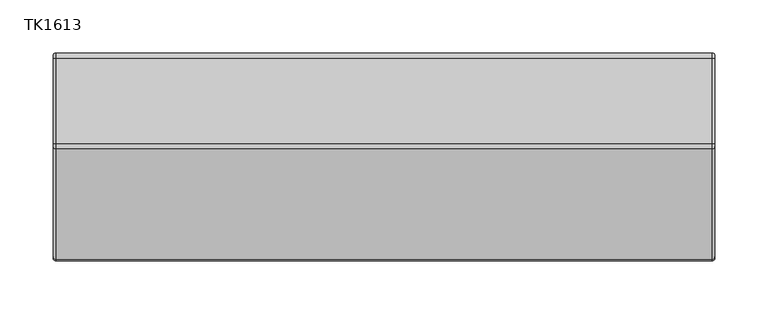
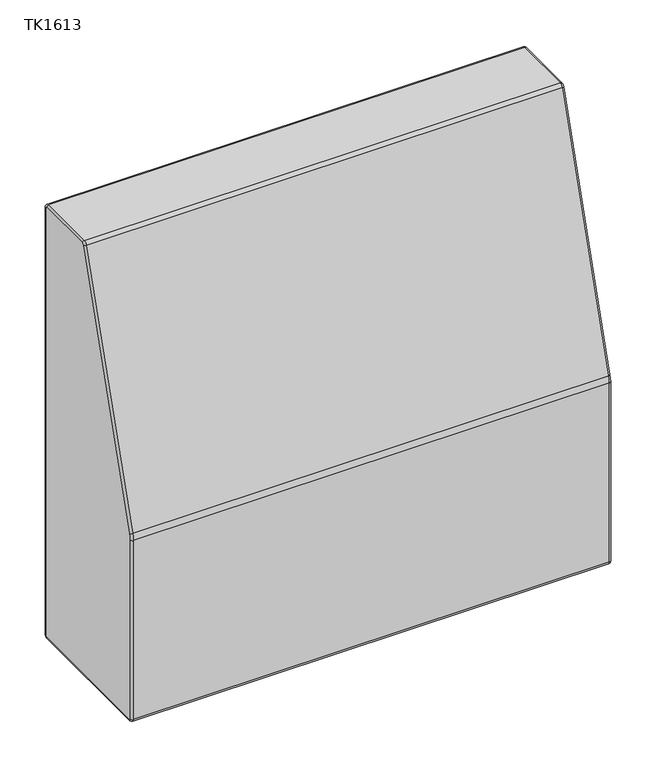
"""IFC4 building model written with IfcOpenShell, lengths in millimetres: furniture geometry, JSI-Teekan-Single_Seat_Lounge : TK1613."""

import ifcopenshell
import ifcopenshell.guid

model = None  # the IFC model being written
_history = None  # IfcOwnerHistory: only IFC2X3 demands one
_inside = {}  # id of a spatial element -> (the spatial element, [elements in it])
_under = {}  # id of a project, library or spatial element -> (it, [spatial elements below it])
_declared = {}  # id of a project -> (the project, [libraries it declares])
_typed = {}  # id of a type object -> (the type object, [elements of that type])
_made_of = {}  # id of a material, layer set ... -> (it, [elements and type objects made of it])


def new_model(schema):
    """Start an empty IFC model of exactly this schema.

    Asked for "IFC4X3", IfcOpenShell would pick the latest addendum, in which some entities
    have other attributes; the version numbers below select the first issue.
    IFC2X3 requires an IfcOwnerHistory on every rooted entity: one is made here for all.
    """
    global model, _history
    if schema == "IFC4X3":
        model = ifcopenshell.file(schema_version=(4, 3, 0, 0))
    else:
        model = ifcopenshell.file(schema=schema)
    _inside.clear()
    _under.clear()
    _declared.clear()
    _typed.clear()
    _made_of.clear()
    _history = None
    if model.schema == "IFC2X3":
        org = make("IfcOrganization", Name="unknown")
        user = make(
            "IfcPersonAndOrganization",
            ThePerson=make("IfcPerson", FamilyName="unknown"),
            TheOrganization=org,
        )
        app = make(
            "IfcApplication",
            ApplicationDeveloper=org,
            Version="unknown",
            ApplicationFullName="unknown",
            ApplicationIdentifier="unknown",
        )
        _history = make(
            "IfcOwnerHistory",
            OwningUser=user,
            OwningApplication=app,
            ChangeAction="ADDED",
            CreationDate=0,
        )
    return model


def make(cls, **values):
    """One entity of the class cls with the attributes given. An attribute that is None is left unset."""
    return model.create_entity(
        cls, **{name: value for name, value in values.items() if value is not None}
    )


def rooted(cls, **values):
    """An entity with a GlobalId (a new one), such as an element, a storey or a relation."""
    return make(cls, GlobalId=ifcopenshell.guid.new(), OwnerHistory=_history, **values)


def si_unit(unit_type, name, prefix=None):
    """IfcSIUnit, for example si_unit("LENGTHUNIT", "METRE", prefix="MILLI")."""
    return make("IfcSIUnit", UnitType=unit_type, Prefix=prefix, Name=name)


def assignment(units):
    """IfcUnitAssignment: the units of a project."""
    return None if units is None else make("IfcUnitAssignment", Units=units)


def point(xyz):
    """IfcCartesianPoint."""
    return None if xyz is None else make("IfcCartesianPoint", Coordinates=xyz)


def direction(xyz):
    """IfcDirection."""
    return None if xyz is None else make("IfcDirection", DirectionRatios=xyz)


def frame(location, z_axis=None, x_axis=None):
    """IfcAxis2Placement3D, a coordinate frame: its origin and axes. An axis left out is left unset."""
    return make(
        "IfcAxis2Placement3D",
        Location=point(location),
        Axis=direction(z_axis),
        RefDirection=direction(x_axis),
    )


def origin():
    """The frame at (0, 0, 0) with its axes left unset."""
    return frame((0.0, 0.0, 0.0))


def place(relative_to, where):
    """IfcLocalPlacement: puts the frame where relative to a parent placement (None: the world)."""
    return make(
        "IfcLocalPlacement", PlacementRelTo=relative_to, RelativePlacement=where
    )


def context(
    kind, dimensions, precision=None, world=None, true_north=None, identifier=None
):
    """IfcGeometricRepresentationContext, for example the 3D "Model" context."""
    return make(
        "IfcGeometricRepresentationContext",
        ContextIdentifier=identifier,
        ContextType=kind,
        CoordinateSpaceDimension=dimensions,
        Precision=precision,
        WorldCoordinateSystem=world,
        TrueNorth=true_north,
    )


def project(units=None, contexts=None):
    """IfcProject with its units and contexts."""
    return rooted(
        "IfcProject",
        Name="project",
        RepresentationContexts=contexts,
        UnitsInContext=assignment(units),
    )


def spatial(cls, under=None, at=None, **own):
    """A site, building, storey or space (cls), placed at a placement, below another one or the project."""
    s = rooted(cls, ObjectPlacement=at, **own)
    if under is not None:
        _under.setdefault(under.id(), (under, []))[1].append(s)
    return s


def circle_curve(where, radius):
    """IfcCircle in the frame where."""
    return make("IfcCircle", Position=where, Radius=radius)


def ellipse_curve(where, semi_axis1, semi_axis2):
    """IfcEllipse in the frame where."""
    return make(
        "IfcEllipse", Position=where, SemiAxis1=semi_axis1, SemiAxis2=semi_axis2
    )


def trimmed(basis, trim1, trim2, sense, master):
    """IfcTrimmedCurve: the piece of a basis curve between two trims."""
    return make(
        "IfcTrimmedCurve",
        BasisCurve=basis,
        Trim1=trim1,
        Trim2=trim2,
        SenseAgreement=sense,
        MasterRepresentation=master,
    )


def shape(context_of_items, identifier, shape_type, items):
    """IfcShapeRepresentation: the items that make up one representation, for example the "Body"."""
    return make(
        "IfcShapeRepresentation",
        ContextOfItems=context_of_items,
        RepresentationIdentifier=identifier,
        RepresentationType=shape_type,
        Items=items,
    )


def source(mapping_origin, context_of_items, identifier, shape_type, items):
    """IfcRepresentationMap: a shape defined once, which mapped items show again and again."""
    return make(
        "IfcRepresentationMap",
        MappingOrigin=mapping_origin,
        MappedRepresentation=shape(context_of_items, identifier, shape_type, items),
    )


def transform(
    local_origin,
    x_axis=None,
    y_axis=None,
    z_axis=None,
    scale=None,
    scale2=None,
    scale3=None,
    uniform=True,
):
    """IfcCartesianTransformationOperator3D, or its non-uniform kind. x_axis, y_axis, z_axis: its Axis1, 2, 3."""
    if uniform:
        return make(
            "IfcCartesianTransformationOperator3D",
            Axis1=direction(x_axis),
            Axis2=direction(y_axis),
            LocalOrigin=point(local_origin),
            Scale=scale,
            Axis3=direction(z_axis),
        )
    return make(
        "IfcCartesianTransformationOperator3DnonUniform",
        Axis1=direction(x_axis),
        Axis2=direction(y_axis),
        LocalOrigin=point(local_origin),
        Scale=scale,
        Axis3=direction(z_axis),
        Scale2=scale2,
        Scale3=scale3,
    )


def mapped(mapping_source, mapping_target):
    """IfcMappedItem: shows the shape of a source again, moved by a transform."""
    return make(
        "IfcMappedItem", MappingSource=mapping_source, MappingTarget=mapping_target
    )


def made_of(thing, what):
    """Note that an element or type object is made of a material, layer set ...; save() writes the relation."""
    if what is not None:
        _made_of.setdefault(what.id(), (what, []))[1].append(thing)
    return thing


def element(
    cls,
    number,
    at=None,
    inside=None,
    cuts=None,
    type_object=None,
    material=None,
    context=None,
    identifier="Body",
    shape_type=None,
    held_by="IfcProductDefinitionShape",
    body=None,
    shapes=None,
    **own,
):
    """One element of the class cls, such as IfcWall. Its Tag is "e" and its number.

    at: its placement. inside: the storey or other place that contains it. cuts: it is an
    opening in that element (IfcRelVoidsElement). A single representation is given by context,
    identifier, shape_type and body (its items); several are given by shapes. held_by: the class
    of the entity that holds the representations. save() writes the other relations.
    """
    e = rooted(cls, Tag="e%d" % number, ObjectPlacement=at, **own)
    if body is not None:
        shapes = [shape(context, identifier, shape_type, body)]
    if shapes is not None:
        e.Representation = make(held_by, Representations=shapes)
    if inside is not None:
        _inside.setdefault(inside.id(), (inside, []))[1].append(e)
    if cuts is not None:
        rooted(
            "IfcRelVoidsElement", RelatingBuildingElement=cuts, RelatedOpeningElement=e
        )
    if type_object is not None:
        _typed.setdefault(type_object.id(), (type_object, []))[1].append(e)
    return made_of(e, material)


def aggregate(whole, parts):
    """IfcRelAggregates: a whole, such as a stair, and the parts it consists of."""
    return rooted("IfcRelAggregates", RelatingObject=whole, RelatedObjects=parts)


def save(model, path):
    """Write the relations noted so far, then the file.

    IfcRelAggregates (storeys below a building ...), IfcRelContainedInSpatialStructure (elements
    in a storey), IfcRelDefinesByType, IfcRelAssociatesMaterial and IfcRelDeclares: one each for
    every whole, place, type object, material and project.
    """
    for whole, parts in _under.values():
        aggregate(whole, parts)
    for where, things in _inside.values():
        rooted(
            "IfcRelContainedInSpatialStructure",
            RelatedElements=things,
            RelatingStructure=where,
        )
    for kind, things in _typed.values():
        rooted("IfcRelDefinesByType", RelatedObjects=things, RelatingType=kind)
    for what, things in _made_of.values():
        rooted("IfcRelAssociatesMaterial", RelatedObjects=things, RelatingMaterial=what)
    for by, libraries in _declared.values():
        rooted("IfcRelDeclares", RelatingContext=by, RelatedDefinitions=libraries)
    model.write(path)


def plane_surface(at):
    """IfcPlane: the flat surface through the origin of the frame at, square to its z axis."""
    return make("IfcPlane", Position=at)


def cylinder_surface(at, radius):
    """IfcCylindricalSurface: all points at the distance radius from the z axis of the frame at."""
    return make("IfcCylindricalSurface", Position=at, Radius=radius)


def revolved_surface(curve, axis_point, axis_direction):
    """IfcSurfaceOfRevolution: the curve turned about the line through axis_point along axis_direction."""
    return make(
        "IfcSurfaceOfRevolution",
        SweptCurve=make("IfcArbitraryOpenProfileDef", ProfileType="CURVE", Curve=curve),
        AxisPosition=make("IfcAxis1Placement", Location=point(axis_point), Axis=direction(axis_direction)),
    )


def advanced_brep(points, edges, surfaces, faces):
    """IfcAdvancedBrep: a solid bounded by faces that lie on surfaces and meet in shared edges.

    An edge is (start, end): straight between two places in points (the first is 0);
    or (start, end, curve); or (start, end, curve, False) where it runs against its curve.
    A face is (place in surfaces, loops), or (place, loops, False) where it looks against
    its surface's normal. A loop lists edges by number (the first is 1), with a minus sign
    where the edge is run from its end to its start. The first loop is the outer one.
    """
    corners = [point(p) for p in points]
    vertices = [make("IfcVertexPoint", VertexGeometry=c) for c in corners]
    made = []
    for start, end, *more in edges:
        made.append(
            make(
                "IfcEdgeCurve",
                EdgeStart=vertices[start],
                EdgeEnd=vertices[end],
                EdgeGeometry=more[0] if more else make("IfcPolyline", Points=[corners[start], corners[end]]),
                SameSense=more[1] if len(more) > 1 else True,
            )
        )
    hull = []
    for where, loops, *sense in faces:
        bounds = []
        for j, loop in enumerate(loops):
            ring = [make("IfcOrientedEdge", EdgeElement=made[abs(k) - 1], Orientation=k > 0) for k in loop]
            bounds.append(
                make(
                    "IfcFaceOuterBound" if j == 0 else "IfcFaceBound",
                    Bound=make("IfcEdgeLoop", EdgeList=ring),
                    Orientation=True,
                )
            )
        hull.append(make("IfcAdvancedFace", Bounds=bounds, FaceSurface=surfaces[where], SameSense=sense[0] if sense else True))
    return make("IfcAdvancedBrep", Outer=make("IfcClosedShell", CfsFaces=hull))


def tk1613_4c493a33(model_context):
    return source(origin(), model_context, "Body", "AdvancedBrep", [
        advanced_brep(
        [(311.15, 261.4671324, 783.3496278), (311.15, 263.7394056, 785.01875), (308.76875, 263.7394056, 787.4), (308.76875, 259.1948592, 784.0617556), (-308.76875, 259.1948592, 784.0617556), (-308.76875, 263.7394056, 787.4), (-311.15, 263.7394056, 785.01875), (-311.15, 261.4671324, 783.3496278), (308.76875, 155.07802, 451.8434221), (311.15, 157.3502932, 451.1312943), (-311.15, 157.3502932, 451.1312943), (-308.76875, 155.07802, 451.8434221), (308.76875, 153.733973, 443.0605128), (311.15, 156.115223, 443.0605128), (-311.15, 156.115223, 443.0605128), (-308.76875, 153.733973, 443.0605128), (308.76875, 153.733973, 197.5346851), (311.15, 156.115223, 197.5346851), (-311.15, 156.115223, 197.5346851), (-308.76875, 153.733973, 197.5346851), (308.76875, 158.496473, 192.7721851), (311.15, 158.496473, 195.1534351), (-311.15, 158.496473, 195.1534351), (-308.76875, 158.496473, 192.7721851), (308.76875, 344.4875, 192.7721851), (311.15, 344.4875, 195.1534351), (-311.15, 344.4875, 195.1534351), (-308.76875, 344.4875, 192.7721851), (308.76875, 349.25, 197.5346851), (311.15, 346.86875, 197.5346851), (-311.15, 346.86875, 197.5346851), (-308.76875, 349.25, 197.5346851), (308.76875, 349.25, 782.6375), (311.15, 346.86875, 782.6375), (-311.15, 346.86875, 782.6375), (-308.76875, 349.25, 782.6375), (308.76875, 344.4875, 787.4), (311.15, 344.4875, 785.01875), (-311.15, 344.4875, 785.01875), (-308.76875, 344.4875, 787.4)],
        [
            (0, 1, circle_curve(frame((311.15, 263.7394056, 782.6375), z_axis=(-1.0, 0.0, 0.0), x_axis=(0.0, 0.0, 1.0)), 2.38125)),
            (1, 2, circle_curve(frame((308.76875, 263.7394056, 785.01875), z_axis=(0.0, -1.0, 0.0), x_axis=(0.0, 0.0, -1.0)), 2.38125)),
            (2, 3, circle_curve(frame((308.76875, 263.7394056, 782.6375), z_axis=(1.0, 0.0, 0.0), x_axis=(0.0, 0.0, 1.0)), 4.7625)),
            (3, 0, circle_curve(frame((308.76875, 261.4671324, 783.3496278), z_axis=(0.0, 0.2990562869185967, 0.9542354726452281), x_axis=(0.0, 0.9542354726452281, -0.2990562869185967)), 2.38125)),
            (4, 5, circle_curve(frame((-308.76875, 263.7394056, 782.6375), z_axis=(-1.0, 0.0, 0.0), x_axis=(0.0, 0.0, 1.0)), 4.7625)),
            (5, 6, circle_curve(frame((-308.76875, 263.7394056, 785.01875), z_axis=(0.0, -1.0, 0.0), x_axis=(0.0, 0.0, -1.0)), 2.38125)),
            (6, 7, circle_curve(frame((-311.15, 263.7394056, 782.6375), z_axis=(1.0, 0.0, 0.0), x_axis=(0.0, 0.0, 1.0)), 2.38125)),
            (7, 4, circle_curve(frame((-308.76875, 261.4671324, 783.3496278), z_axis=(0.0, 0.29905628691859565, 0.9542354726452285), x_axis=(0.0, 0.9542354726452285, -0.29905628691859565)), 2.38125)),
            (2, 5),
            (4, 3),
            (3, 8),
            (8, 9, circle_curve(frame((308.76875, 157.3502932, 451.1312943), z_axis=(0.0, 0.29905628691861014, 0.954235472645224), x_axis=(0.0, 0.954235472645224, -0.29905628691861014)), 2.38125)),
            (9, 0),
            (7, 10),
            (10, 11, circle_curve(frame((-308.76875, 157.3502932, 451.1312943), z_axis=(0.0, 0.29905628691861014, 0.954235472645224), x_axis=(0.0, 0.954235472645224, -0.29905628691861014)), 2.38125)),
            (11, 4),
            (11, 8),
            (8, 12, circle_curve(frame((308.76875, 183.102723, 443.0605128), z_axis=(1.0, 0.0, 0.0), x_axis=(0.0, -0.9542354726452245, 0.29905628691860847)), 29.36875)),
            (12, 13, circle_curve(frame((308.76875, 156.115223, 443.0605128), z_axis=(0.0, 0.0, 1.0), x_axis=(0.0, 1.0, 0.0)), 2.38125)),
            (13, 9, circle_curve(frame((311.15, 183.102723, 443.0605128), z_axis=(-1.0, 0.0, 0.0), x_axis=(0.0, -0.9542354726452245, 0.29905628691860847)), 26.9875)),
            (10, 14, circle_curve(frame((-311.15, 183.102723, 443.0605128), z_axis=(1.0, 0.0, 0.0), x_axis=(0.0, -0.9542354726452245, 0.29905628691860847)), 26.9875)),
            (14, 15, circle_curve(frame((-308.76875, 156.115223, 443.0605128), z_axis=(0.0, 0.0, 1.0), x_axis=(0.0, 1.0, 0.0)), 2.38125)),
            (15, 11, circle_curve(frame((-308.76875, 183.102723, 443.0605128), z_axis=(-1.0, 0.0, 0.0), x_axis=(0.0, -0.9542354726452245, 0.29905628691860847)), 29.36875)),
            (15, 12),
            (12, 16),
            (16, 17, circle_curve(frame((308.76875, 156.115223, 197.5346851), z_axis=(0.0, 0.0, 1.0), x_axis=(0.0, 1.0, 0.0)), 2.38125)),
            (17, 13),
            (14, 18),
            (18, 19, circle_curve(frame((-308.76875, 156.115223, 197.5346851), z_axis=(0.0, 0.0, 1.0), x_axis=(0.0, 1.0, 0.0)), 2.38125)),
            (19, 15),
            (19, 16),
            (16, 20, circle_curve(frame((308.76875, 158.496473, 197.5346851), z_axis=(1.0, 0.0, 0.0), x_axis=(0.0, -1.0, 0.0)), 4.7625)),
            (20, 21, circle_curve(frame((308.76875, 158.496473, 195.1534351), z_axis=(0.0, -1.0, 0.0), x_axis=(0.0, 0.0, 1.0)), 2.38125)),
            (21, 17, circle_curve(frame((311.15, 158.496473, 197.5346851), z_axis=(-1.0, 0.0, 0.0), x_axis=(0.0, -1.0, 0.0)), 2.38125)),
            (18, 22, circle_curve(frame((-311.15, 158.496473, 197.5346851), z_axis=(1.0, 0.0, 0.0), x_axis=(0.0, -1.0, 0.0)), 2.38125)),
            (22, 23, circle_curve(frame((-308.76875, 158.496473, 195.1534351), z_axis=(0.0, -1.0, 0.0), x_axis=(0.0, 0.0, 1.0)), 2.38125)),
            (23, 19, circle_curve(frame((-308.76875, 158.496473, 197.5346851), z_axis=(-1.0, 0.0, 0.0), x_axis=(0.0, -1.0, 0.0)), 4.7625)),
            (23, 20),
            (20, 24),
            (24, 25, circle_curve(frame((308.76875, 344.4875, 195.1534351), z_axis=(0.0, -1.0, 0.0), x_axis=(0.0, 0.0, 1.0)), 2.38125)),
            (25, 21),
            (22, 26),
            (26, 27, circle_curve(frame((-308.76875, 344.4875, 195.1534351), z_axis=(0.0, -1.0, 0.0), x_axis=(0.0, 0.0, 1.0)), 2.38125)),
            (27, 23),
            (27, 24),
            (24, 28, circle_curve(frame((308.76875, 344.4875, 197.5346851), z_axis=(1.0, 0.0, 0.0), x_axis=(0.0, 0.0, -1.0)), 4.7625)),
            (28, 29, circle_curve(frame((308.76875, 346.86875, 197.5346851), z_axis=(0.0, 0.0, -1.0), x_axis=(0.0, -1.0, 0.0)), 2.38125)),
            (29, 25, circle_curve(frame((311.15, 344.4875, 197.5346851), z_axis=(-1.0, 0.0, 0.0), x_axis=(0.0, 0.0, -1.0)), 2.38125)),
            (26, 30, circle_curve(frame((-311.15, 344.4875, 197.5346851), z_axis=(1.0, 0.0, 0.0), x_axis=(0.0, 0.0, -1.0)), 2.38125)),
            (30, 31, circle_curve(frame((-308.76875, 346.86875, 197.5346851), z_axis=(0.0, 0.0, -1.0), x_axis=(0.0, -1.0, 0.0)), 2.38125)),
            (31, 27, circle_curve(frame((-308.76875, 344.4875, 197.5346851), z_axis=(-1.0, 0.0, 0.0), x_axis=(0.0, 0.0, -1.0)), 4.7625)),
            (31, 28),
            (28, 32),
            (32, 33, circle_curve(frame((308.76875, 346.86875, 782.6375), z_axis=(0.0, 0.0, -1.0), x_axis=(0.0, -1.0, 0.0)), 2.38125)),
            (33, 29),
            (30, 34),
            (34, 35, circle_curve(frame((-308.76875, 346.86875, 782.6375), z_axis=(0.0, 0.0, -1.0), x_axis=(0.0, -1.0, 0.0)), 2.38125)),
            (35, 31),
            (35, 32),
            (32, 36, circle_curve(frame((308.76875, 344.4875, 782.6375), z_axis=(1.0, 0.0, 0.0), x_axis=(0.0, 1.0, 0.0)), 4.7625)),
            (36, 37, circle_curve(frame((308.76875, 344.4875, 785.01875), z_axis=(0.0, 1.0, 0.0), x_axis=(0.0, 0.0, -1.0)), 2.38125)),
            (37, 33, circle_curve(frame((311.15, 344.4875, 782.6375), z_axis=(-1.0, 0.0, 0.0), x_axis=(0.0, 1.0, 0.0)), 2.38125)),
            (34, 38, circle_curve(frame((-311.15, 344.4875, 782.6375), z_axis=(1.0, 0.0, 0.0), x_axis=(0.0, 1.0, 0.0)), 2.38125)),
            (38, 39, circle_curve(frame((-308.76875, 344.4875, 785.01875), z_axis=(0.0, 1.0, 0.0), x_axis=(0.0, 0.0, -1.0)), 2.38125)),
            (39, 35, circle_curve(frame((-308.76875, 344.4875, 782.6375), z_axis=(-1.0, 0.0, 0.0), x_axis=(0.0, 1.0, 0.0)), 4.7625)),
            (39, 36),
            (1, 37),
            (36, 2),
            (6, 38),
            (5, 39),
        ],
        [
            revolved_surface(trimmed(ellipse_curve(frame((308.76875, 263.7394056, 785.01875), z_axis=(0.0, 1.0, 0.0), x_axis=(0.0, 0.0, -1.0)), 2.38125, 2.38125), [point((308.76875, 263.7394056, 787.4))], [point((311.15, 263.7394056, 785.01875))], True, "CARTESIAN"), (0.0, 263.7394056, 782.6375), (1.0, 0.0, 0.0)),
            revolved_surface(trimmed(ellipse_curve(frame((-308.76875, 263.7394056, 785.01875), z_axis=(0.0, 1.0, 0.0), x_axis=(0.0, 0.0, -1.0)), 2.38125, 2.38125), [point((-311.15, 263.7394056, 785.01875))], [point((-308.76875, 263.7394056, 787.4))], True, "CARTESIAN"), (0.0, 263.7394056, 782.6375), (1.0, 0.0, 0.0)),
            cylinder_surface(frame((0.0, 263.7394056, 782.6375), z_axis=(1.0, 0.0, 0.0), x_axis=(0.0, 0.0, 1.0)), 4.7625),
            cylinder_surface(frame((308.76875, 261.4671324, 783.3496278), z_axis=(0.0, 0.29905628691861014, 0.954235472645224), x_axis=(0.0, 0.954235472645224, -0.29905628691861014)), 2.38125),
            cylinder_surface(frame((-308.76875, 261.4671324, 783.3496278), z_axis=(0.0, 0.29905628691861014, 0.954235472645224), x_axis=(0.0, 0.954235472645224, -0.29905628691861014)), 2.38125),
            plane_surface(frame((-308.76875, 259.1948592, 784.0617556), z_axis=(0.0, -0.9542354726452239, 0.29905628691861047), x_axis=(0.0, -0.29905628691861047, -0.9542354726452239))),
            revolved_surface(trimmed(ellipse_curve(frame((308.76875, 157.3502932, 451.1312943), z_axis=(0.0, 0.299056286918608, 0.9542354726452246), x_axis=(0.0, 0.9542354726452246, -0.299056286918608)), 2.38125, 2.38125), [point((308.76875, 155.07802, 451.8434221))], [point((311.15, 157.3502932, 451.1312943))], True, "CARTESIAN"), (0.0, 183.102723, 443.0605128), (1.0, 0.0, 0.0)),
            revolved_surface(trimmed(ellipse_curve(frame((-308.76875, 157.3502932, 451.1312943), z_axis=(0.0, 0.299056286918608, 0.9542354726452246), x_axis=(0.0, 0.9542354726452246, -0.299056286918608)), 2.38125, 2.38125), [point((-311.15, 157.3502932, 451.1312943))], [point((-308.76875, 155.07802, 451.8434221))], True, "CARTESIAN"), (0.0, 183.102723, 443.0605128), (1.0, 0.0, 0.0)),
            cylinder_surface(frame((0.0, 183.102723, 443.0605128), z_axis=(1.0, 0.0, 0.0), x_axis=(0.0, -0.9542354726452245, 0.29905628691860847)), 29.36875),
            cylinder_surface(frame((308.76875, 156.115223, 443.0605128), z_axis=(0.0, 0.0, 1.0), x_axis=(0.0, 1.0, 0.0)), 2.38125),
            cylinder_surface(frame((-308.76875, 156.115223, 443.0605128), z_axis=(0.0, 0.0, 1.0), x_axis=(0.0, 1.0, 0.0)), 2.38125),
            plane_surface(frame((-308.76875, 153.733973, 443.0605128), z_axis=(0.0, -1.0, 0.0), x_axis=(0.0, 0.0, -1.0))),
            revolved_surface(trimmed(ellipse_curve(frame((308.76875, 156.115223, 197.5346851), z_axis=(0.0, 0.0, 1.0), x_axis=(0.0, 1.0, 0.0)), 2.38125, 2.38125), [point((308.76875, 153.733973, 197.5346851))], [point((311.15, 156.115223, 197.5346851))], True, "CARTESIAN"), (0.0, 158.496473, 197.5346851), (1.0, 0.0, 0.0)),
            revolved_surface(trimmed(ellipse_curve(frame((-308.76875, 156.115223, 197.5346851), z_axis=(0.0, 0.0, 1.0), x_axis=(0.0, 1.0, 0.0)), 2.38125, 2.38125), [point((-311.15, 156.115223, 197.5346851))], [point((-308.76875, 153.733973, 197.5346851))], True, "CARTESIAN"), (0.0, 158.496473, 197.5346851), (1.0, 0.0, 0.0)),
            cylinder_surface(frame((0.0, 158.496473, 197.5346851), z_axis=(1.0, 0.0, 0.0), x_axis=(0.0, -1.0, 0.0)), 4.7625),
            cylinder_surface(frame((308.76875, 158.496473, 195.1534351), z_axis=(0.0, -1.0, 0.0), x_axis=(0.0, 0.0, 1.0)), 2.38125),
            cylinder_surface(frame((-308.76875, 158.496473, 195.1534351), z_axis=(0.0, -1.0, 0.0), x_axis=(0.0, 0.0, 1.0)), 2.38125),
            plane_surface(frame((-308.76875, 158.496473, 192.7721851), z_axis=(0.0, 0.0, -1.0), x_axis=(0.0, 1.0, 0.0))),
            revolved_surface(trimmed(ellipse_curve(frame((308.76875, 344.4875, 195.1534351), z_axis=(0.0, -1.0, 0.0), x_axis=(0.0, 0.0, 1.0)), 2.38125, 2.38125), [point((308.76875, 344.4875, 192.7721851))], [point((311.15, 344.4875, 195.1534351))], True, "CARTESIAN"), (0.0, 344.4875, 197.5346851), (1.0, 0.0, 0.0)),
            revolved_surface(trimmed(ellipse_curve(frame((-308.76875, 344.4875, 195.1534351), z_axis=(0.0, -1.0, 0.0), x_axis=(0.0, 0.0, 1.0)), 2.38125, 2.38125), [point((-311.15, 344.4875, 195.1534351))], [point((-308.76875, 344.4875, 192.7721851))], True, "CARTESIAN"), (0.0, 344.4875, 197.5346851), (1.0, 0.0, 0.0)),
            cylinder_surface(frame((0.0, 344.4875, 197.5346851), z_axis=(1.0, 0.0, 0.0), x_axis=(0.0, 0.0, -1.0)), 4.7625),
            cylinder_surface(frame((308.76875, 346.86875, 197.5346851), z_axis=(0.0, 0.0, -1.0), x_axis=(0.0, -1.0, 0.0)), 2.38125),
            cylinder_surface(frame((-308.76875, 346.86875, 197.5346851), z_axis=(0.0, 0.0, -1.0), x_axis=(0.0, -1.0, 0.0)), 2.38125),
            plane_surface(frame((-308.76875, 349.25, 197.5346851), z_axis=(0.0, 1.0, 0.0), x_axis=(0.0, 0.0, 1.0))),
            revolved_surface(trimmed(ellipse_curve(frame((308.76875, 346.86875, 782.6375), z_axis=(0.0, 0.0, -1.0), x_axis=(0.0, -1.0, 0.0)), 2.38125, 2.38125), [point((308.76875, 349.25, 782.6375))], [point((311.15, 346.86875, 782.6375))], True, "CARTESIAN"), (0.0, 344.4875, 782.6375), (1.0, 0.0, 0.0)),
            revolved_surface(trimmed(ellipse_curve(frame((-308.76875, 346.86875, 782.6375), z_axis=(0.0, 0.0, -1.0), x_axis=(0.0, -1.0, 0.0)), 2.38125, 2.38125), [point((-311.15, 346.86875, 782.6375))], [point((-308.76875, 349.25, 782.6375))], True, "CARTESIAN"), (0.0, 344.4875, 782.6375), (1.0, 0.0, 0.0)),
            cylinder_surface(frame((0.0, 344.4875, 782.6375), z_axis=(1.0, 0.0, 0.0), x_axis=(0.0, 1.0, 0.0)), 4.7625),
            cylinder_surface(frame((308.76875, 344.4875, 785.01875), z_axis=(0.0, 1.0, 0.0), x_axis=(0.0, 0.0, -1.0)), 2.38125),
            plane_surface(frame((311.15, 344.4875, 785.01875), z_axis=(1.0, 0.0, 0.0), x_axis=(0.0, -1.0, 0.0))),
            plane_surface(frame((-311.15, 344.4875, 783.43125), z_axis=(-1.0, 0.0, 0.0), x_axis=(0.0, -1.0, 0.0))),
            cylinder_surface(frame((-308.76875, 344.4875, 785.01875), z_axis=(0.0, 1.0, 0.0), x_axis=(0.0, 0.0, -1.0)), 2.38125),
            plane_surface(frame((-308.76875, 344.4875, 787.4), z_axis=(0.0, 0.0, 1.0), x_axis=(0.0, -1.0, 0.0))),
        ],
        [
            (0, [[1, 2, 3, 4]]),
            (1, [[5, 6, 7, 8]]),
            (2, [[-3, 9, -5, 10]]),
            (3, [[-4, 11, 12, 13]]),
            (4, [[-8, 14, 15, 16]]),
            (5, [[-10, -16, 17, -11]]),
            (6, [[-12, 18, 19, 20]]),
            (7, [[-15, 21, 22, 23]]),
            (8, [[-17, -23, 24, -18]]),
            (9, [[-19, 25, 26, 27]]),
            (10, [[-22, 28, 29, 30]]),
            (11, [[-24, -30, 31, -25]]),
            (12, [[-26, 32, 33, 34]]),
            (13, [[-29, 35, 36, 37]]),
            (14, [[-31, -37, 38, -32]]),
            (15, [[-33, 39, 40, 41]]),
            (16, [[-36, 42, 43, 44]]),
            (17, [[-38, -44, 45, -39]]),
            (18, [[-40, 46, 47, 48]]),
            (19, [[-43, 49, 50, 51]]),
            (20, [[-45, -51, 52, -46]]),
            (21, [[-47, 53, 54, 55]]),
            (22, [[-50, 56, 57, 58]]),
            (23, [[-52, -58, 59, -53]]),
            (24, [[-54, 60, 61, 62]]),
            (25, [[-57, 63, 64, 65]]),
            (26, [[-59, -65, 66, -60]]),
            (27, [[-2, 67, -61, 68]]),
            (28, [[-1, -13, -20, -27, -34, -41, -48, -55, -62, -67]]),
            (29, [[-7, 69, -63, -56, -49, -42, -35, -28, -21, -14]]),
            (30, [[-6, 70, -64, -69]]),
            (31, [[-9, -68, -66, -70]]),
        ],
    ),
    ])


if __name__ == "__main__":
    model = new_model("IFC4")
    model_context = context("Model", 3, world=origin())
    ifc_project = project(units=[si_unit("LENGTHUNIT", "METRE", prefix="MILLI")], contexts=[model_context])
    site = spatial("IfcSite", under=ifc_project)
    building = spatial("IfcBuilding", under=site)
    placement = place(None, origin())
    tk1613_shape = tk1613_4c493a33(model_context)
    element("IfcFurniture", 1, ObjectType="JSI-Teekan-Single_Seat_Lounge : TK1613", at=placement, inside=building, context=model_context, shape_type="MappedRepresentation", body=[
        mapped(tk1613_shape, transform((0.0, 0.0, 0.0), x_axis=(1.0, 0.0, 0.0), y_axis=(0.0, 1.0, 0.0), z_axis=(0.0, 0.0, 1.0))),
    ])
    save(model, "model.ifc")
